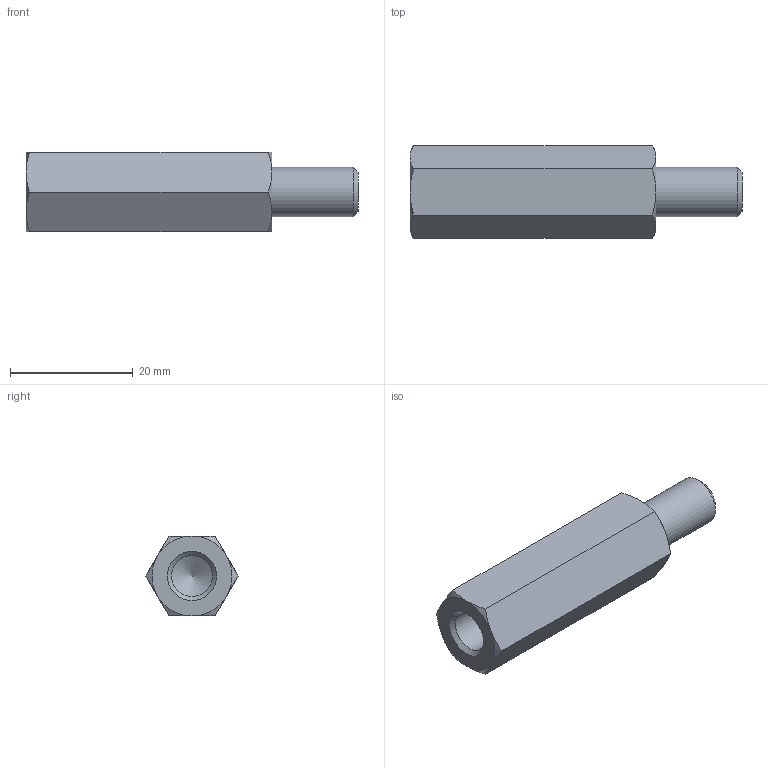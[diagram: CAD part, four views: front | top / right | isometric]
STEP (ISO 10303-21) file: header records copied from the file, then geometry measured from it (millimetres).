
FILE_DESCRIPTION( ( 'STEP AP203' ), '1' );
FILE_NAME( 'C:/Temp/Ganter_Step_05_03_2020/data/3_2/gn6220/gn6220_ni/Stainless Steel-Spacer GN 6220-NI-M8-40-B.stp', '2020-03-13T05:43:18', ( 'License CC BY-ND 4.0' ), ( 'CADENAS' ), ' ', 'PARTsolutions', ' ' );
FILE_SCHEMA( ( 'CONFIG_CONTROL_DESIGN' ) );
Length unit declared in the file: millimetre
Products named in the file (1): _Stainless Steel-Spacer GN 6220-NI-M8-40-B
Bounding box: 54 x 15.01 x 13 mm (x, y, z)
Volume: 5817.2 mm3; surface area: 2840.1 mm2
Topology: 1 solids, 1 shells, 26 faces, 55 edges, 32 vertices
Faces by surface type: cone 15, plane 9, cylinder 2
Full cylindrical faces by diameter (mm): 6.647 x1, 8 x1
Entity records: 778 total; most frequent: CARTESIAN_POINT 242, DIRECTION 96, ORIENTED_EDGE 96, EDGE_CURVE 48, AXIS2_PLACEMENT_3D 45, EDGE_LOOP 32, VERTEX_POINT 31, FACE_OUTER_BOUND 28
